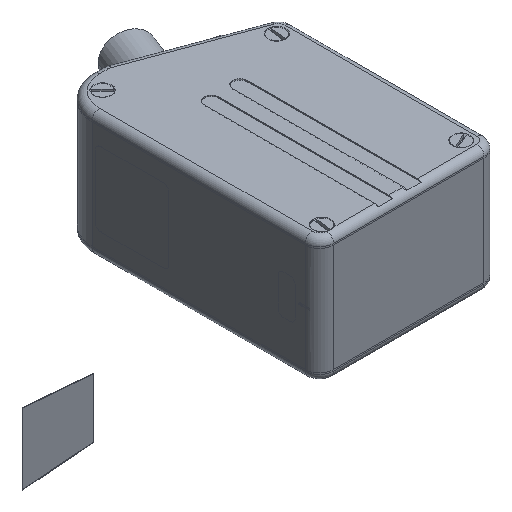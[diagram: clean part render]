
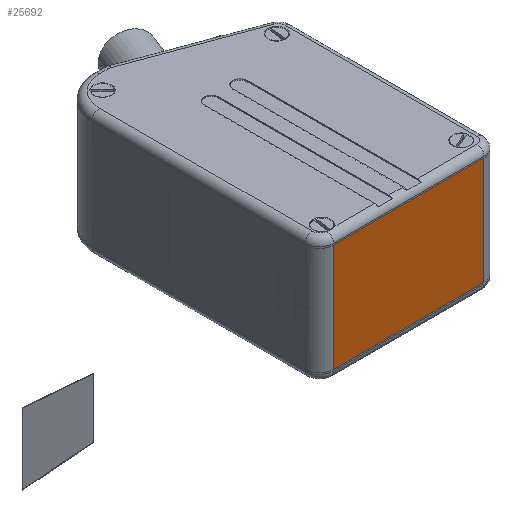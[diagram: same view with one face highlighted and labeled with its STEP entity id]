
A CAD part, isometric view. The second image highlights one B-rep face of the part: STEP entity #25692.
In plain terms, the highlighted planar face has unit normal (0, -1, 0).
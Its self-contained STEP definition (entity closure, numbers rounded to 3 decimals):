
#1378 = VERTEX_POINT ( 'NONE', #24568 ) ;
#3387 = EDGE_CURVE ( 'NONE', #13897, #1378, #8955, .T. ) ;
#4164 = CARTESIAN_POINT ( 'NONE',  ( -0.3, -44.121, 3. ) ) ;
#5849 = ORIENTED_EDGE ( 'NONE', *, *, #3387, .T. ) ;
#6232 = VECTOR ( 'NONE', #17107, 1000. ) ;
#6303 = VECTOR ( 'NONE', #34327, 1000. ) ;
#8955 = LINE ( 'NONE', #27684, #14059 ) ;
#10556 = CARTESIAN_POINT ( 'NONE',  ( 57.7, -44.121, 41. ) ) ;
#10910 = LINE ( 'NONE', #30458, #6232 ) ;
#11845 = ORIENTED_EDGE ( 'NONE', *, *, #19968, .T. ) ;
#12460 = AXIS2_PLACEMENT_3D ( 'NONE', #25109, #17029, #27758 ) ;
#12511 = EDGE_LOOP ( 'NONE', ( #15621, #11845, #23810, #5849 ) ) ;
#12972 = VECTOR ( 'NONE', #29867, 1000. ) ;
#13897 = VERTEX_POINT ( 'NONE', #14568 ) ;
#14059 = VECTOR ( 'NONE', #27563, 1000. ) ;
#14568 = CARTESIAN_POINT ( 'NONE',  ( 4.7, -44.121, 41. ) ) ;
#15621 = ORIENTED_EDGE ( 'NONE', *, *, #34881, .F. ) ;
#17029 = DIRECTION ( 'NONE',  ( 0., 1., 0. ) ) ;
#17107 = DIRECTION ( 'NONE',  ( 0., 0., 1. ) ) ;
#18052 = CARTESIAN_POINT ( 'NONE',  ( 57.7, -44.121, 3. ) ) ;
#18824 = FACE_OUTER_BOUND ( 'NONE', #12511, .T. ) ;
#19968 = EDGE_CURVE ( 'NONE', #28955, #28692, #10910, .T. ) ;
#21319 = CARTESIAN_POINT ( 'NONE',  ( -0.3, -44.121, 41. ) ) ;
#23810 = ORIENTED_EDGE ( 'NONE', *, *, #24517, .F. ) ;
#24517 = EDGE_CURVE ( 'NONE', #13897, #28692, #35197, .T. ) ;
#24568 = CARTESIAN_POINT ( 'NONE',  ( 4.7, -44.121, 3. ) ) ;
#25109 = CARTESIAN_POINT ( 'NONE',  ( -0.3, -44.121, 44. ) ) ;
#25692 = ADVANCED_FACE ( 'NONE', ( #18824 ), #30626, .F. ) ;
#27563 = DIRECTION ( 'NONE',  ( 0., 0., -1. ) ) ;
#27684 = CARTESIAN_POINT ( 'NONE',  ( 4.7, -44.121, 44. ) ) ;
#27758 = DIRECTION ( 'NONE',  ( 0., 0., 1. ) ) ;
#28044 = LINE ( 'NONE', #4164, #6303 ) ;
#28692 = VERTEX_POINT ( 'NONE', #10556 ) ;
#28955 = VERTEX_POINT ( 'NONE', #18052 ) ;
#29867 = DIRECTION ( 'NONE',  ( 1., 0., 0. ) ) ;
#30458 = CARTESIAN_POINT ( 'NONE',  ( 57.7, -44.121, 44. ) ) ;
#30626 = PLANE ( 'NONE',  #12460 ) ;
#34327 = DIRECTION ( 'NONE',  ( -1., 0., 0. ) ) ;
#34881 = EDGE_CURVE ( 'NONE', #28955, #1378, #28044, .T. ) ;
#35197 = LINE ( 'NONE', #21319, #12972 ) ;
